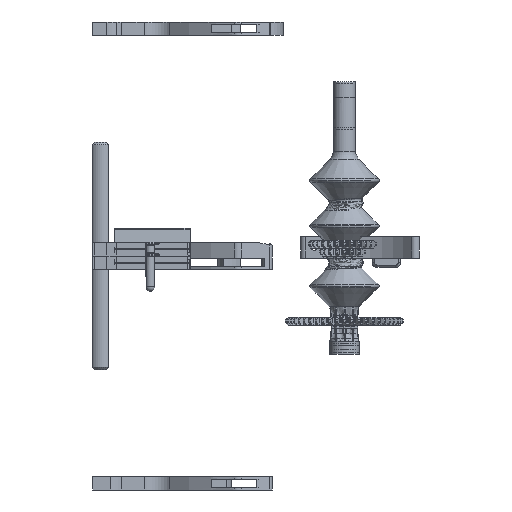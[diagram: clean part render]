
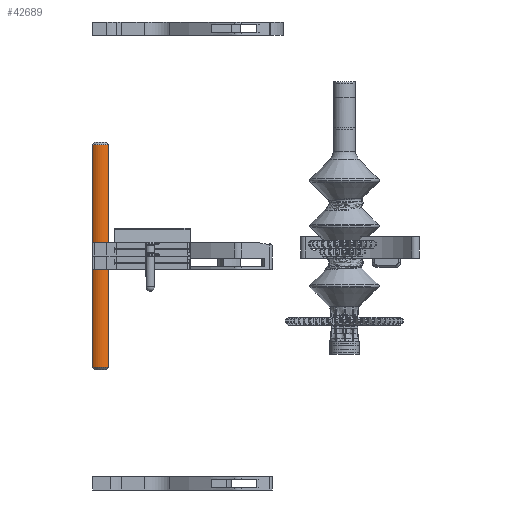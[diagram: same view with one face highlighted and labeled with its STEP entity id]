
A CAD part, left-side view. The second image highlights one B-rep face of the part: STEP entity #42689.
In plain terms, the highlighted cylindrical face has radius 10 mm (diameter 20 mm), a partial arc.
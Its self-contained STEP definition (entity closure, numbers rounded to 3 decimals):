
#4328=CYLINDRICAL_SURFACE('',#46137,10.);
#6531=FACE_OUTER_BOUND('',#9054,.T.);
#9054=EDGE_LOOP('',(#38683,#38684,#38685,#38686));
#11336=LINE('',#153362,#13705);
#11341=LINE('',#153400,#13710);
#13705=VECTOR('',#54857,10.);
#13710=VECTOR('',#54884,10.);
#15738=CIRCLE('',#46122,10.);
#15742=CIRCLE('',#46133,10.);
#19841=VERTEX_POINT('',#153339);
#19843=VERTEX_POINT('',#153348);
#19845=VERTEX_POINT('',#153360);
#19851=VERTEX_POINT('',#153390);
#26162=EDGE_CURVE('',#19843,#19841,#15738,.T.);
#26167=EDGE_CURVE('',#19843,#19845,#11336,.T.);
#26177=EDGE_CURVE('',#19851,#19845,#15742,.T.);
#26180=EDGE_CURVE('',#19851,#19841,#11341,.T.);
#38683=ORIENTED_EDGE('',*,*,#26162,.F.);
#38684=ORIENTED_EDGE('',*,*,#26167,.T.);
#38685=ORIENTED_EDGE('',*,*,#26177,.F.);
#38686=ORIENTED_EDGE('',*,*,#26180,.T.);
#42689=ADVANCED_FACE('',(#6531),#4328,.T.);
#46122=AXIS2_PLACEMENT_3D('',#153353,#54847,#54848);
#46133=AXIS2_PLACEMENT_3D('',#153395,#54876,#54877);
#46137=AXIS2_PLACEMENT_3D('',#153402,#54887,#54888);
#54847=DIRECTION('center_axis',(0.,0.,-1.));
#54848=DIRECTION('ref_axis',(-0.707,0.707,0.));
#54857=DIRECTION('',(0.,0.,1.));
#54876=DIRECTION('center_axis',(0.,0.,1.));
#54877=DIRECTION('ref_axis',(-0.707,0.707,0.));
#54884=DIRECTION('',(0.,0.,-1.));
#54887=DIRECTION('center_axis',(0.,0.,1.));
#54888=DIRECTION('ref_axis',(-0.707,0.707,0.));
#153339=CARTESIAN_POINT('',(-7.071,144.049,-98.));
#153348=CARTESIAN_POINT('',(-7.071,129.907,-98.));
#153353=CARTESIAN_POINT('Origin',(0.,136.978,
-98.));
#153360=CARTESIAN_POINT('',(-7.071,129.907,98.));
#153362=CARTESIAN_POINT('',(-7.071,129.907,0.));
#153390=CARTESIAN_POINT('',(-7.071,144.049,98.));
#153395=CARTESIAN_POINT('Origin',(0.,136.978,
98.));
#153400=CARTESIAN_POINT('',(-7.071,144.049,0.));
#153402=CARTESIAN_POINT('Origin',(0.,136.978,
0.));
